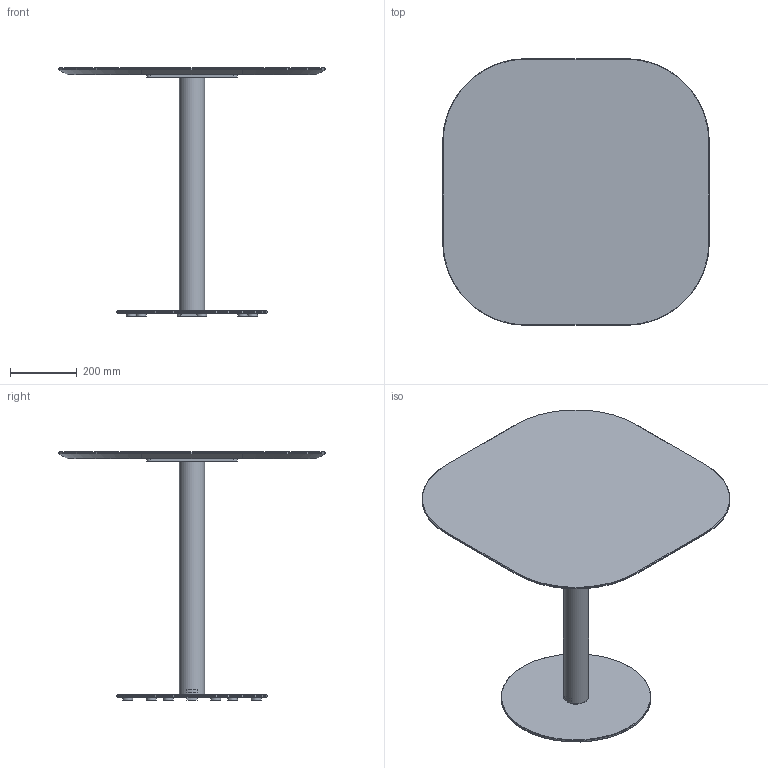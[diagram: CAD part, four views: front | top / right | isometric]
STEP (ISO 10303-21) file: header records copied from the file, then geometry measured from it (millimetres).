
FILE_DESCRIPTION( ('This file contains a STEP AP42 implementation' ,'as created by ZW3D STEP Interface translator.') ,'2;1' );
FILE_NAME( 'Henri - B_Rond - F2 - M5 - 800 x 800 x 750.stp' ,'24 912.153421', (''), ('ZWCAD Software Co.'), 'Version 1.0', 'ZW3D to STEP translator', '' );
FILE_SCHEMA(('AUTOMOTIVE_DESIGN { 1 0 10303 214 1 1 1 1 }'));
Length unit declared in the file: millimetre
Products named in the file (14): 0; PIED BISTROT PARAMETRIQUE_; COLONNE ACIER Ø76 V.02_; TUB-D076-02_; PLA-R76B-01_; SOCLE ACIER C Ø450 V.02_; SCL-D450-02_; PLA-R30A-01_; PLA-R30A-01; CROIX ACIER 370 V.02_; CRX-X370-02_; WUERTH 0276063020 Euro-screw 6.3x2 Verzinkt_; PLATEAU BISTROT PARAMETRIQUE_; insert_m6_13_
Assembly tree (24 placements, depth 3):
  0
  PIED BISTROT PARAMETRIQUE_
    COLONNE ACIER Ø76 V.02_
      TUB-D076-02_
      PLA-R76B-01_  x2
    SOCLE ACIER C Ø450 V.02_
      SCL-D450-02_
      PLA-R30A-01_
      PLA-R30A-01  x5
    CROIX ACIER 370 V.02_
      CRX-X370-02_
    WUERTH 0276063020 Euro-screw 6.3x2 Verzinkt_
    PLATEAU BISTROT PARAMETRIQUE_
      insert_m6_13_  x8
Bounding box: 800 x 800 x 744 mm (x, y, z)
Volume: 13416935.2 mm3; surface area: 2049660.4 mm2
Topology: 21 solids, 21 shells, 524 faces, 1273 edges, 802 vertices
Faces by surface type: plane 254, bspline 121, cylinder 99, cone 49, torus 1
Full cylindrical faces by diameter (mm): 4.88 x1, 6 x8, 6.3 x1, 8 x47, 12 x2, 14 x2, 30 x6, 72 x1, 76 x1, 450 x1
Entity records: 11734 total; most frequent: CARTESIAN_POINT 3302, ORIENTED_EDGE 1526, DIRECTION 1424, EDGE_CURVE 763, VERTEX_POINT 490, VECTOR 476, LINE 476, AXIS2_PLACEMENT_3D 474
